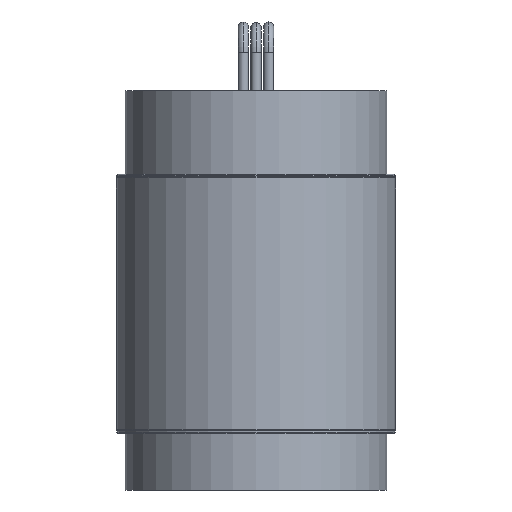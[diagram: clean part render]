
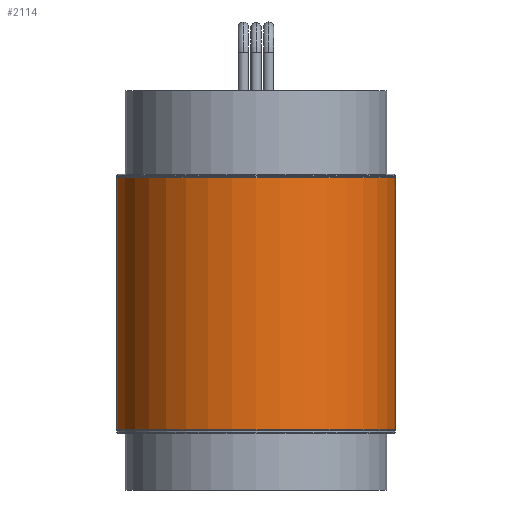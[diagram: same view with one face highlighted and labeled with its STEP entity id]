
A CAD part, front view. The second image highlights one B-rep face of the part: STEP entity #2114.
In plain terms, the highlighted cylindrical face has radius 27.927 mm (diameter 55.855 mm), a partial arc.
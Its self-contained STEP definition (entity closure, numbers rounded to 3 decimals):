
#44 = AXIS2_PLACEMENT_3D ( 'NONE', #2239, #493, #125 ) ;
#66 = VECTOR ( 'NONE', #667, 1000. ) ;
#125 = DIRECTION ( 'NONE',  ( 1., 0., 0. ) ) ;
#166 = VERTEX_POINT ( 'NONE', #543 ) ;
#207 = DIRECTION ( 'NONE',  ( 0., 0., -1. ) ) ;
#276 = CARTESIAN_POINT ( 'NONE',  ( 0., 0., -25.197 ) ) ;
#281 = CIRCLE ( 'NONE', #44, 27.927 ) ;
#296 = LINE ( 'NONE', #2069, #66 ) ;
#329 = VECTOR ( 'NONE', #207, 1000. ) ;
#338 = CARTESIAN_POINT ( 'NONE',  ( 27.927, 0., 25.197 ) ) ;
#473 = ORIENTED_EDGE ( 'NONE', *, *, #1623, .T. ) ;
#493 = DIRECTION ( 'NONE',  ( 0., 0., 1. ) ) ;
#543 = CARTESIAN_POINT ( 'NONE',  ( 27.927, 0., -25.197 ) ) ;
#578 = CARTESIAN_POINT ( 'NONE',  ( 0., 0., 25.197 ) ) ;
#617 = ORIENTED_EDGE ( 'NONE', *, *, #1343, .F. ) ;
#632 = EDGE_CURVE ( 'NONE', #1106, #780, #281, .T. ) ;
#667 = DIRECTION ( 'NONE',  ( 0., 0., -1. ) ) ;
#704 = AXIS2_PLACEMENT_3D ( 'NONE', #578, #1811, #1967 ) ;
#780 = VERTEX_POINT ( 'NONE', #338 ) ;
#806 = LINE ( 'NONE', #938, #329 ) ;
#848 = VERTEX_POINT ( 'NONE', #1250 ) ;
#938 = CARTESIAN_POINT ( 'NONE',  ( -27.927, 0., 25.197 ) ) ;
#1106 = VERTEX_POINT ( 'NONE', #1303 ) ;
#1250 = CARTESIAN_POINT ( 'NONE',  ( -27.927, 0., -25.197 ) ) ;
#1303 = CARTESIAN_POINT ( 'NONE',  ( -27.927, 0., 25.197 ) ) ;
#1326 = CYLINDRICAL_SURFACE ( 'NONE', #704, 27.927 ) ;
#1343 = EDGE_CURVE ( 'NONE', #780, #166, #296, .T. ) ;
#1377 = FACE_OUTER_BOUND ( 'NONE', #1666, .T. ) ;
#1380 = CIRCLE ( 'NONE', #2047, 27.927 ) ;
#1424 = ORIENTED_EDGE ( 'NONE', *, *, #2156, .T. ) ;
#1623 = EDGE_CURVE ( 'NONE', #848, #166, #1380, .T. ) ;
#1666 = EDGE_LOOP ( 'NONE', ( #617, #1774, #1424, #473 ) ) ;
#1774 = ORIENTED_EDGE ( 'NONE', *, *, #632, .F. ) ;
#1811 = DIRECTION ( 'NONE',  ( 0., 0., -1. ) ) ;
#1874 = DIRECTION ( 'NONE',  ( 0., 0., 1. ) ) ;
#1967 = DIRECTION ( 'NONE',  ( -1., 0., 0. ) ) ;
#2047 = AXIS2_PLACEMENT_3D ( 'NONE', #276, #1874, #2060 ) ;
#2060 = DIRECTION ( 'NONE',  ( 1., 0., 0. ) ) ;
#2069 = CARTESIAN_POINT ( 'NONE',  ( 27.927, 0., 25.197 ) ) ;
#2114 = ADVANCED_FACE ( 'NONE', ( #1377 ), #1326, .T. ) ;
#2156 = EDGE_CURVE ( 'NONE', #1106, #848, #806, .T. ) ;
#2239 = CARTESIAN_POINT ( 'NONE',  ( 0., 0., 25.197 ) ) ;
